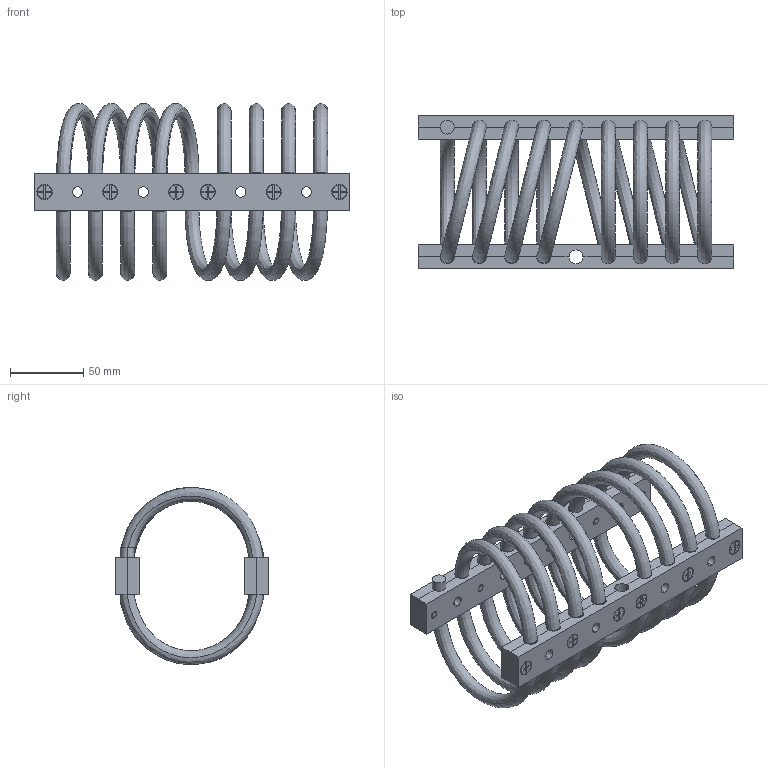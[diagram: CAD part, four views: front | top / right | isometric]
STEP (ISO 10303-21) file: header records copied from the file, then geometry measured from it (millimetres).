
FILE_DESCRIPTION (( 'STEP AP214' ), '1' );
FILE_NAME ('WR12-700-8DM.STEP', '2018-12-07T10:03:39', ( 'user' ), ( 'Microsoft' ), 'SwSTEP 2.0', 'SolidWorks 2016', '' );
FILE_SCHEMA (( 'AUTOMOTIVE_DESIGN' ));
Length unit declared in the file: millimetre
Products named in the file (1): WR12-700-8DM
Bounding box: 215.9 x 105 x 121 mm (x, y, z)
Volume: 328694.1 mm3; surface area: 152753.1 mm2
Topology: 34 solids, 34 shells, 660 faces, 1580 edges, 1024 vertices
Faces by surface type: plane 300, cylinder 256, cone 72, bspline 32
Entity records: 32499 total; most frequent: CARTESIAN_POINT 15865, DIRECTION 3214, ORIENTED_EDGE 3160, EDGE_CURVE 1580, AXIS2_PLACEMENT_3D 1149, VERTEX_POINT 1024, LINE 916, VECTOR 916
